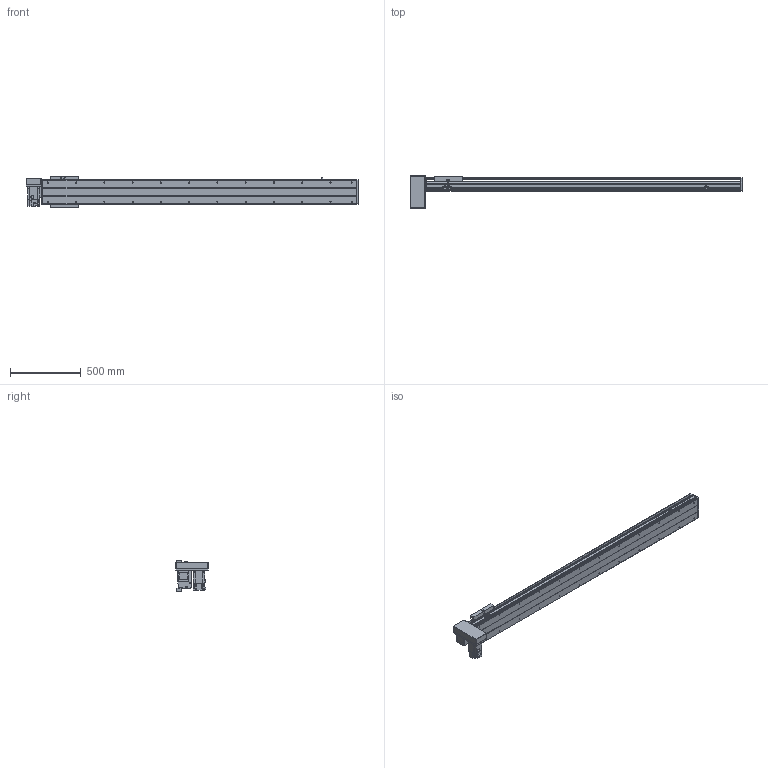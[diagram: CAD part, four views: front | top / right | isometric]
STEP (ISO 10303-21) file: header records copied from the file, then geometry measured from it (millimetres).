
FILE_DESCRIPTION(/* description */ ('STEP AP214'),/* implementation_level */ '2;1');
FILE_NAME(/* name */ 'PBS200-P40-S1850-RD-T75-C1-N(0)',/* time_stamp */ '2022-06-11T09:30:38+02:00',/* author */ ('License CC BY-ND 4.0'),/* organization */ ('CADENAS'),/* preprocessor_version */ 'ST-DEVELOPER v18.102',/* originating_system */ 'PARTsolutions',/* authorisation */ ' ');
FILE_SCHEMA (('AUTOMOTIVE_DESIGN {1 0 10303 214 3 1 1}'));
Length unit declared in the file: millimetre
Products named in the file (7): PBS200-P40-S1850-RD-T75-C1-N(0); PBS200_sensor; PBS200_plant; PBS200_sliser; T75-p1; PBS200T-RD_motors; PBS200-S1850()_body
Assembly tree (8 placements, depth 2):
  PBS200-P40-S1850-RD-T75-C1-N(0)
    PBS200_sensor  x3
    PBS200_plant
    PBS200_sliser
    T75-p1
    PBS200T-RD_motors
    PBS200-S1850()_body
Bounding box: 2350 x 230 x 221 mm (x, y, z)
Volume: 16545168.9 mm3; surface area: 2656330.5 mm2
Topology: 8 solids, 8 shells, 944 faces, 2414 edges, 1572 vertices
Faces by surface type: plane 582, cylinder 306, cone 56
Full cylindrical faces by diameter (mm): 2.459 x6, 3.242 x4, 4.5 x6, 4.917 x4, 5 x6, 6 x7, 6.6 x8, 6.647 x28, 8 x6, 10 x4, 12 x8, 38 x2, 40 x1, 70 x1
Entity records: 25061 total; most frequent: DIRECTION 4423, CARTESIAN_POINT 4264, ORIENTED_EDGE 4030, EDGE_CURVE 2015, AXIS2_PLACEMENT_3D 1555, VERTEX_POINT 1396, LINE 1313, VECTOR 1313
